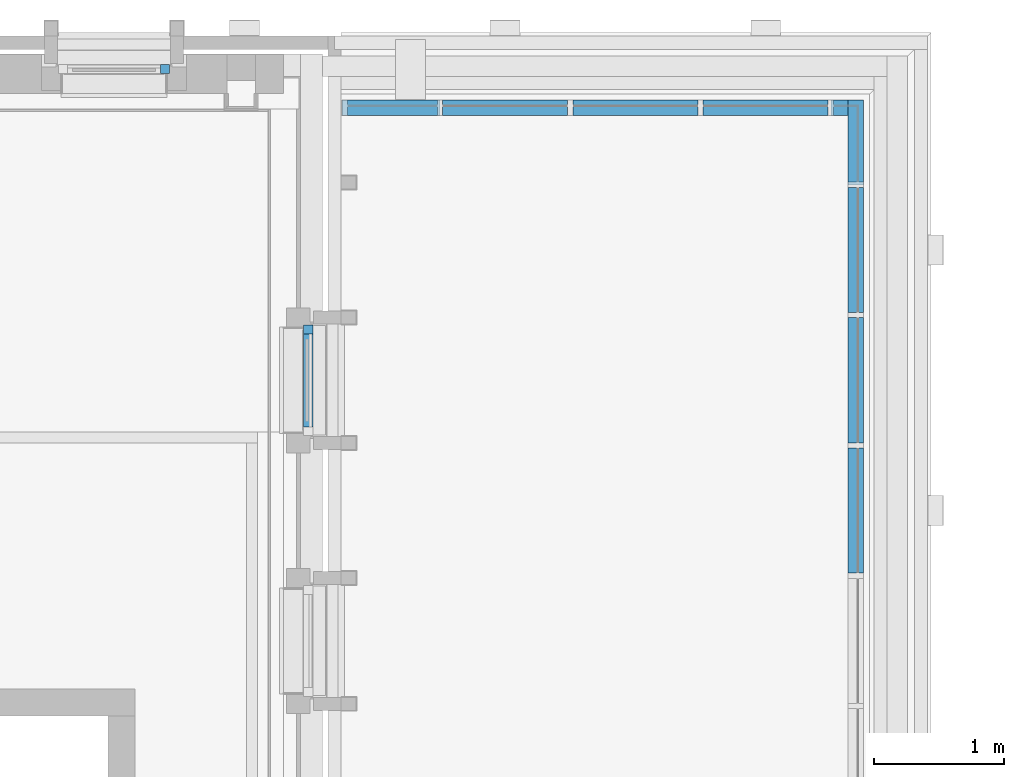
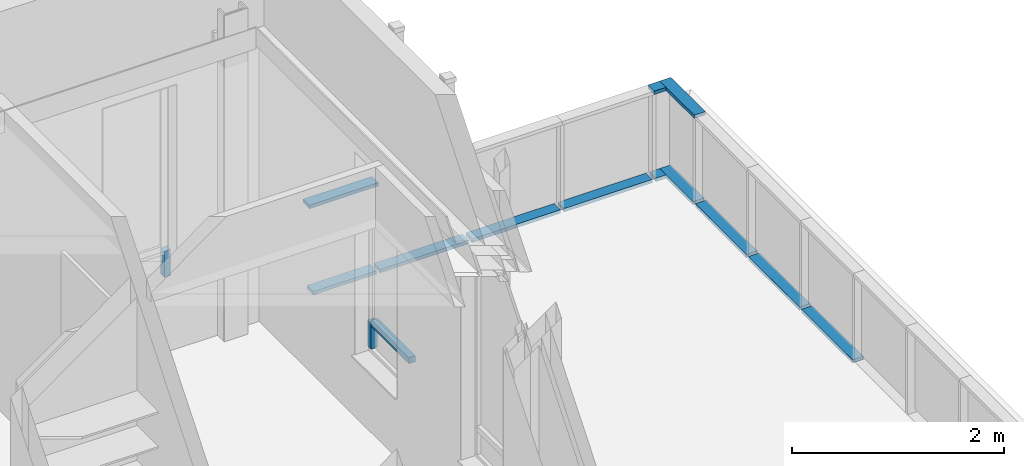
# One storey, part 16 of 118: 15 members, 4 elements without a shape of their own.
"""IFC2X3 building model written with IfcOpenShell, lengths in millimetres."""

from ifc_helpers import new_model, entity, si_unit, converted_unit, derived_unit, direction, frame, origin, origin_2d_with_axis, place, context, subcontext, project, spatial, rectangle, extrude, source, transform, mapped, material, material_list, type_object, type_shapes, element, aggregate, save


model = new_model("IFC2X3")

# Units and contexts
model_context = context("Model", 3, precision=0.01, world=origin(), true_north=direction((6.123031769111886e-17, 1.0)))
plan_context = context("Plan", 3, precision=0.01, world=origin(), true_north=direction((6.123031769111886e-17, 1.0)))
body_context = subcontext(model_context, "Body", "Model", "MODEL_VIEW")
ifc_project = project(units=[si_unit("LENGTHUNIT", "METRE", prefix="MILLI"), si_unit("AREAUNIT", "SQUARE_METRE"), si_unit("VOLUMEUNIT", "CUBIC_METRE"), converted_unit("PLANEANGLEUNIT", "DEGREE", entity("IfcRatioMeasure", 0.017453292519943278), si_unit("PLANEANGLEUNIT", "RADIAN"), dimensions=[0, 0, 0, 0, 0, 0, 0]), si_unit("MASSUNIT", "GRAM", prefix="KILO"), derived_unit("MASSDENSITYUNIT", [(si_unit("MASSUNIT", "GRAM", prefix="KILO"), 1), (si_unit("LENGTHUNIT", "METRE"), -3)]), derived_unit("IONCONCENTRATIONUNIT", [(si_unit("MASSUNIT", "GRAM", prefix="KILO"), 1), (si_unit("LENGTHUNIT", "METRE"), -3)]), derived_unit("MOMENTOFINERTIAUNIT", [(si_unit("LENGTHUNIT", "METRE"), 4)]), si_unit("TIMEUNIT", "SECOND"), si_unit("FREQUENCYUNIT", "HERTZ"), si_unit("THERMODYNAMICTEMPERATUREUNIT", "DEGREE_CELSIUS"), derived_unit("THERMALTRANSMITTANCEUNIT", [(si_unit("MASSUNIT", "GRAM", prefix="KILO"), 1), (si_unit("THERMODYNAMICTEMPERATUREUNIT", "KELVIN"), -1), (si_unit("TIMEUNIT", "SECOND"), -3)]), derived_unit("THERMALCONDUCTANCEUNIT", [(si_unit("MASSUNIT", "GRAM", prefix="KILO"), 1), (si_unit("THERMODYNAMICTEMPERATUREUNIT", "KELVIN"), -1), (si_unit("TIMEUNIT", "SECOND"), -3), (si_unit("LENGTHUNIT", "METRE"), 1)]), derived_unit("VOLUMETRICFLOWRATEUNIT", [(si_unit("LENGTHUNIT", "METRE"), 3), (si_unit("TIMEUNIT", "SECOND"), -1)]), derived_unit("MASSFLOWRATEUNIT", [(si_unit("MASSUNIT", "GRAM", prefix="KILO"), 1), (si_unit("TIMEUNIT", "SECOND"), -1)]), derived_unit("ROTATIONALFREQUENCYUNIT", [(si_unit("TIMEUNIT", "SECOND"), -1)]), si_unit("ELECTRICCURRENTUNIT", "AMPERE"), si_unit("ELECTRICVOLTAGEUNIT", "VOLT"), si_unit("POWERUNIT", "WATT"), si_unit("FORCEUNIT", "NEWTON", prefix="KILO"), si_unit("ILLUMINANCEUNIT", "LUX"), si_unit("LUMINOUSFLUXUNIT", "LUMEN"), si_unit("LUMINOUSINTENSITYUNIT", "CANDELA"), derived_unit("USERDEFINED", [(si_unit("MASSUNIT", "GRAM", prefix="KILO"), -1), (si_unit("LENGTHUNIT", "METRE"), -2), (si_unit("TIMEUNIT", "SECOND"), 3), (si_unit("LUMINOUSFLUXUNIT", "LUMEN"), 1)]), derived_unit("USERDEFINED", [(si_unit("MASSUNIT", "GRAM", prefix="KILO"), 1), (si_unit("TIMEUNIT", "SECOND"), -3), (si_unit("LENGTHUNIT", "METRE"), 3), (si_unit("ELECTRICCURRENTUNIT", "AMPERE"), -2)]), derived_unit("SOUNDPOWERUNIT", [(si_unit("MASSUNIT", "GRAM", prefix="KILO"), 1), (si_unit("TIMEUNIT", "SECOND"), -3), (si_unit("LENGTHUNIT", "METRE"), 2)]), derived_unit("SOUNDPRESSUREUNIT", [(si_unit("MASSUNIT", "GRAM", prefix="KILO"), 1), (si_unit("LENGTHUNIT", "METRE"), -1), (si_unit("TIMEUNIT", "SECOND"), -2)]), derived_unit("LINEARVELOCITYUNIT", [(si_unit("LENGTHUNIT", "METRE"), 1), (si_unit("TIMEUNIT", "SECOND"), -1)]), si_unit("PRESSUREUNIT", "PASCAL"), derived_unit("USERDEFINED", [(si_unit("MASSUNIT", "GRAM", prefix="KILO"), 1), (si_unit("LENGTHUNIT", "METRE"), -2), (si_unit("TIMEUNIT", "SECOND"), -2)]), derived_unit("LINEARFORCEUNIT", [(si_unit("MASSUNIT", "GRAM", prefix="KILO"), 1), (si_unit("TIMEUNIT", "SECOND"), -2)]), derived_unit("PLANARFORCEUNIT", [(si_unit("MASSUNIT", "GRAM", prefix="KILO"), 1), (si_unit("LENGTHUNIT", "METRE"), -1), (si_unit("TIMEUNIT", "SECOND"), -2)]), derived_unit("SPECIFICHEATCAPACITYUNIT", [(si_unit("THERMODYNAMICTEMPERATUREUNIT", "KELVIN"), -1), (si_unit("LENGTHUNIT", "METRE"), 2), (si_unit("TIMEUNIT", "SECOND"), -2)]), derived_unit("HEATINGVALUEUNIT", [(si_unit("LENGTHUNIT", "METRE"), 2), (si_unit("TIMEUNIT", "SECOND"), -2)]), derived_unit("VAPORPERMEABILITYUNIT", [(si_unit("LENGTHUNIT", "METRE"), -1), (si_unit("TIMEUNIT", "SECOND"), 1)]), derived_unit("DYNAMICVISCOSITYUNIT", [(si_unit("MASSUNIT", "GRAM", prefix="KILO"), 1), (si_unit("TIMEUNIT", "SECOND"), -1), (si_unit("LENGTHUNIT", "METRE"), -1)]), derived_unit("THERMALEXPANSIONCOEFFICIENTUNIT", [(si_unit("THERMODYNAMICTEMPERATUREUNIT", "KELVIN"), -1)]), derived_unit("MODULUSOFELASTICITYUNIT", [(si_unit("MASSUNIT", "GRAM", prefix="KILO"), 1), (si_unit("LENGTHUNIT", "METRE"), -1), (si_unit("TIMEUNIT", "SECOND"), -2)]), derived_unit("ISOTHERMALMOISTURECAPACITYUNIT", [(si_unit("LENGTHUNIT", "METRE"), 3), (si_unit("MASSUNIT", "GRAM", prefix="KILO"), -1)]), derived_unit("MOISTUREDIFFUSIVITYUNIT", [(si_unit("TIMEUNIT", "SECOND"), -1), (si_unit("LENGTHUNIT", "METRE"), 2)])], contexts=[model_context, plan_context])

# Site, building, storey
site_placement = place(None, origin())
site = spatial("IfcSite", under=ifc_project, at=site_placement, Name="Locatie", CompositionType="ELEMENT")
building_placement = place(site_placement, origin())
building = spatial("IfcBuilding", under=site, at=building_placement, Name="Bouwwerk", CompositionType="ELEMENT")
storey_placement = place(building_placement, frame((0.0, 0.0, 7800.0)))
storey = spatial("IfcBuildingStorey", under=building, at=storey_placement, Name="02 tweede verdieping", CompositionType="ELEMENT", Elevation=7800.000000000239)

# Curtain wall, member
curtain_wall_type_1 = type_object("IfcCurtainWallType", Name="Curtain Wall:NLRS_21_CW_Ontwerpkozijn_aluminium_RT72", PredefinedType="NOTDEFINED")
curtain_wall_1_placement = place(storey_placement, frame((0.0, 0.0, -7800.0)))
curtain_wall_1 = element("IfcCurtainWall", 1, at=curtain_wall_1_placement, inside=storey, type_object=curtain_wall_type_1, Name="Curtain Wall:NLRS_21_CW_Ontwerpkozijn_aluminium_RT72", ObjectType="Curtain Wall:NLRS_21_CW_Ontwerpkozijn_aluminium_RT72")
ifc_material_1 = material(Name="a_kozijn")
ifc_material_2 = material(Name="<Unnamed>")
ifc_material_list = material_list([ifc_material_2, ifc_material_1])
member_type_1 = type_object("IfcMemberType", Name="Rectangular Mullion:RT72_Hl_raam", PredefinedType="MULLION", material=ifc_material_list)
shared_shape_1 = source(origin(), body_context, "Body", "SweptSolid", [
    extrude(rectangle(XDim=71.99999999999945, YDim=68.00000000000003, at=origin_2d_with_axis()), frame((-34.0, -36.0, -301.0), z_axis=(0.0, 0.0, 1.0), x_axis=(0.0, -1.0, 0.0)), (0.0, 0.0, 1.0), 301.00000000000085),
])
type_shapes(member_type_1, [shared_shape_1])
member_1_placement = place(curtain_wall_1_placement, frame((33725.0, 34553.0, 8541.0), z_axis=(0.0, 0.0, -1.0), x_axis=(1.0, 0.0, 0.0)))
member_1 = element("IfcMember", 2, at=member_1_placement, type_object=member_type_1, material=ifc_material_1, Name="Rectangular Mullion:RT72_Hl_raam", ObjectType="Rectangular Mullion:RT72_Hl_raam", context=body_context, shape_type="MappedRepresentation", body=[
    mapped(shared_shape_1, transform((0.0, 0.0, 0.0), scale=1.0)),
])
aggregate(curtain_wall_1, [member_1])

# Curtain wall, members
curtain_wall_2_placement = place(storey_placement, frame((0.0, 0.0, -7800.0)))
curtain_wall_2 = element("IfcCurtainWall", 3, at=curtain_wall_2_placement, inside=storey, type_object=curtain_wall_type_1, Name="Curtain Wall:NLRS_21_CW_Ontwerpkozijn_aluminium_RT72", ObjectType="Curtain Wall:NLRS_21_CW_Ontwerpkozijn_aluminium_RT72")
member_type_2 = type_object("IfcMemberType", Name="Rectangular Mullion:RT72_Hr_raam", PredefinedType="MULLION", material=ifc_material_list)
shared_shape_2 = source(origin(), body_context, "Body", "SweptSolid", [
    extrude(rectangle(XDim=71.99999999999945, YDim=68.00000000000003, at=origin_2d_with_axis()), frame((-34.0, -36.0, -301.0), z_axis=(0.0, 0.0, 1.0), x_axis=(0.0, -1.0, 0.0)), (0.0, 0.0, 1.0), 301.00000000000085),
])
type_shapes(member_type_2, [shared_shape_2])
member_2_placement = place(curtain_wall_2_placement, frame((34753.0, 32625.0, 8842.0), z_axis=(0.0, 0.0, 1.0), x_axis=(0.0, 1.0, 0.0)))
member_2 = element("IfcMember", 4, at=member_2_placement, type_object=member_type_2, material=ifc_material_1, Name="Rectangular Mullion:RT72_Hr_raam", ObjectType="Rectangular Mullion:RT72_Hr_raam", context=body_context, shape_type="MappedRepresentation", body=[
    mapped(shared_shape_2, transform((0.0, 0.0, 0.0), scale=1.0)),
])
member_type_3 = type_object("IfcMemberType", Name="Rectangular Mullion:RT72_Vb_raam", PredefinedType="MULLION", material=ifc_material_list)
shared_shape_3 = source(origin(), body_context, "Body", "SweptSolid", [
    extrude(rectangle(XDim=71.99999999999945, YDim=68.00000000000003, at=origin_2d_with_axis()), frame((0.0, -36.0, -714.0), z_axis=(0.0, 0.0, 1.0), x_axis=(0.0, -1.0, 0.0)), (0.0, 0.0, 1.0), 714.0000000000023),
])
type_shapes(member_type_3, [shared_shape_3])
member_3_placement = place(curtain_wall_2_placement, frame((34753.0, 31843.0, 8842.0), z_axis=(0.0, -1.0, 0.0), x_axis=(0.0, 0.0, 1.0)))
member_3 = element("IfcMember", 5, at=member_3_placement, type_object=member_type_3, material=ifc_material_1, Name="Rectangular Mullion:RT72_Vb_raam", ObjectType="Rectangular Mullion:RT72_Vb_raam", context=body_context, shape_type="MappedRepresentation", body=[
    mapped(shared_shape_3, transform((0.0, 0.0, 0.0), scale=1.0)),
])
aggregate(curtain_wall_2, [member_2, member_3])

curtain_wall_type_2 = type_object("IfcCurtainWallType", Name="Curtain Wall:railing 120x40", PredefinedType="NOTDEFINED")
curtain_wall_3_placement = place(storey_placement, frame((0.0, 0.0, -7800.0)))
curtain_wall_3 = element("IfcCurtainWall", 6, at=curtain_wall_3_placement, inside=storey, type_object=curtain_wall_type_2, Name="Curtain Wall:railing 120x40", ObjectType="Curtain Wall:railing 120x40")
ifc_material_3 = material(Name="staal")
member_type_4 = type_object("IfcMemberType", Name="Rectangular Mullion:40x120 railing", PredefinedType="MULLION", material=ifc_material_3)
shared_shape_4 = source(origin(), body_context, "Body", "SweptSolid", [
    extrude(rectangle(XDim=120.0, YDim=40.0, at=origin_2d_with_axis()), frame((-20.0, 0.0, -960.0), z_axis=(0.0, 0.0, 1.0), x_axis=(0.0, -1.0, 0.0)), (0.0, 0.0, 1.0), 959.9999999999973),
])
type_shapes(member_type_4, [shared_shape_4])
member_4_placement = place(curtain_wall_3_placement, frame((38990.0, 30720.0, 8033.0), z_axis=(0.0, -1.0, 0.0), x_axis=(0.0, 0.0, -1.0)))
member_4 = element("IfcMember", 7, at=member_4_placement, type_object=member_type_4, material=ifc_material_3, Name="Rectangular Mullion:40x120 railing", ObjectType="Rectangular Mullion:40x120 railing", context=body_context, shape_type="MappedRepresentation", body=[
    mapped(shared_shape_4, transform((0.0, 0.0, 0.0), scale=1.0)),
])
member_5_placement = place(curtain_wall_3_placement, frame((38990.0, 32720.0, 8033.0), z_axis=(0.0, -1.0, 0.0), x_axis=(0.0, 0.0, -1.0)))
member_5 = element("IfcMember", 8, at=member_5_placement, type_object=member_type_4, material=ifc_material_3, Name="Rectangular Mullion:40x120 railing", ObjectType="Rectangular Mullion:40x120 railing", context=body_context, shape_type="MappedRepresentation", body=[
    mapped(shared_shape_4, transform((0.0, 0.0, 0.0), scale=1.0)),
])
member_6_placement = place(curtain_wall_3_placement, frame((38990.0, 31720.0, 8033.0), z_axis=(0.0, -1.0, 0.0), x_axis=(0.0, 0.0, -1.0)))
member_6 = element("IfcMember", 9, at=member_6_placement, type_object=member_type_4, material=ifc_material_3, Name="Rectangular Mullion:40x120 railing", ObjectType="Rectangular Mullion:40x120 railing", context=body_context, shape_type="MappedRepresentation", body=[
    mapped(shared_shape_4, transform((0.0, 0.0, 0.0), scale=1.0)),
])

curtain_wall_4_placement = place(storey_placement, frame((0.0, 0.0, -7800.0)))
curtain_wall_4 = element("IfcCurtainWall", 10, at=curtain_wall_4_placement, inside=storey, type_object=curtain_wall_type_2, Name="Curtain Wall:railing 120x40", ObjectType="Curtain Wall:railing 120x40")
member_7_placement = place(curtain_wall_4_placement, frame((37780.0, 34290.0, 8033.0), z_axis=(1.0, 0.0, 0.0), x_axis=(0.0, 0.0, -1.0)))
member_7 = element("IfcMember", 11, at=member_7_placement, type_object=member_type_4, material=ifc_material_3, Name="Rectangular Mullion:40x120 railing", ObjectType="Rectangular Mullion:40x120 railing", context=body_context, shape_type="MappedRepresentation", body=[
    mapped(shared_shape_4, transform((0.0, 0.0, 0.0), scale=1.0)),
])
member_8_placement = place(curtain_wall_4_placement, frame((36780.0, 34290.0, 8033.0), z_axis=(1.0, 0.0, 0.0), x_axis=(0.0, 0.0, -1.0)))
member_8 = element("IfcMember", 12, at=member_8_placement, type_object=member_type_4, material=ifc_material_3, Name="Rectangular Mullion:40x120 railing", ObjectType="Rectangular Mullion:40x120 railing", context=body_context, shape_type="MappedRepresentation", body=[
    mapped(shared_shape_4, transform((0.0, 0.0, 0.0), scale=1.0)),
])
member_9_placement = place(curtain_wall_4_placement, frame((38780.0, 34290.0, 8033.0), z_axis=(1.0, 0.0, 0.0), x_axis=(0.0, 0.0, -1.0)))
member_9 = element("IfcMember", 13, at=member_9_placement, type_object=member_type_4, material=ifc_material_3, Name="Rectangular Mullion:40x120 railing", ObjectType="Rectangular Mullion:40x120 railing", context=body_context, shape_type="MappedRepresentation", body=[
    mapped(shared_shape_4, transform((0.0, 0.0, 0.0), scale=1.0)),
])
member_type_5 = type_object("IfcMemberType", Name="Rectangular Mullion:40x120 railing", PredefinedType="MULLION", material=ifc_material_3)
shared_shape_5 = source(origin(), body_context, "Body", "SweptSolid", [
    extrude(rectangle(XDim=120.0, YDim=40.0, at=origin_2d_with_axis()), frame((-20.0, 0.0, -690.0), z_axis=(0.0, 0.0, 1.0), x_axis=(0.0, -1.0, 0.0)), (0.0, 0.0, 1.0), 690.0000000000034),
])
type_shapes(member_type_5, [shared_shape_5])
member_10_placement = place(curtain_wall_4_placement, frame((35780.0, 34290.0, 8033.0), z_axis=(1.0, 0.0, 0.0), x_axis=(0.0, 0.0, -1.0)))
member_10 = element("IfcMember", 14, at=member_10_placement, type_object=member_type_5, material=ifc_material_3, Name="Rectangular Mullion:40x120 railing", ObjectType="Rectangular Mullion:40x120 railing", context=body_context, shape_type="MappedRepresentation", body=[
    mapped(shared_shape_5, transform((0.0, 0.0, 0.0), scale=1.0)),
])

# Member
member_type_6 = type_object("IfcMemberType", Name="Rectangular Mullion:40x120 railing", PredefinedType="MULLION", material=ifc_material_3)
shared_shape_6 = source(origin(), body_context, "Body", "SweptSolid", [
    extrude(rectangle(XDim=120.0, YDim=40.0, at=origin_2d_with_axis()), frame((-20.0, 0.0, -650.0), z_axis=(0.0, 0.0, 1.0), x_axis=(0.0, -1.0, 0.0)), (0.0, 0.0, 1.0), 650.0000000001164),
])
type_shapes(member_type_6, [shared_shape_6])
member_11_placement = place(curtain_wall_3_placement, frame((38990.0, 34350.0, 9080.0), z_axis=(0.0, 1.0, 0.0), x_axis=(0.0, 0.0, 1.0)))
member_11 = element("IfcMember", 15, at=member_11_placement, type_object=member_type_6, material=ifc_material_3, Name="Rectangular Mullion:40x120 railing", ObjectType="Rectangular Mullion:40x120 railing", context=body_context, shape_type="MappedRepresentation", body=[
    mapped(shared_shape_6, transform((0.0, 0.0, 0.0), scale=1.0)),
])

member_type_7 = type_object("IfcMemberType", Name="Rectangular Mullion:40x120 railing", PredefinedType="MULLION", material=ifc_material_3)
shared_shape_7 = source(origin(), body_context, "Body", "SweptSolid", [
    extrude(rectangle(XDim=120.0, YDim=40.0, at=origin_2d_with_axis()), frame((-20.0, 0.0, -630.0), z_axis=(0.0, 0.0, 1.0), x_axis=(0.0, -1.0, 0.0)), (0.0, 0.0, 1.0), 630.0000000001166),
])
type_shapes(member_type_7, [shared_shape_7])
member_12_placement = place(curtain_wall_3_placement, frame((38990.0, 33720.0, 8033.0), z_axis=(0.0, -1.0, 0.0), x_axis=(0.0, 0.0, -1.0)))
member_12 = element("IfcMember", 16, at=member_12_placement, type_object=member_type_7, material=ifc_material_3, Name="Rectangular Mullion:40x120 railing", ObjectType="Rectangular Mullion:40x120 railing", context=body_context, shape_type="MappedRepresentation", body=[
    mapped(shared_shape_7, transform((0.0, 0.0, 0.0), scale=1.0)),
])

aggregate(curtain_wall_3, [member_11, member_4, member_5, member_6, member_12])

member_type_8 = type_object("IfcMemberType", Name="Rectangular Mullion:40x120 railing", PredefinedType="MULLION", material=ifc_material_3)
shared_shape_8 = source(origin(), body_context, "Body", "SweptSolid", [
    extrude(rectangle(XDim=120.0, YDim=40.0, at=origin_2d_with_axis()), frame((-20.0, 0.0, -750.0), z_axis=(0.0, 0.0, 1.0), x_axis=(0.0, -1.0, 0.0)), (0.0, 0.0, 1.0), 750.0000000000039),
])
type_shapes(member_type_8, [shared_shape_8])
member_13_placement = place(curtain_wall_4_placement, frame((35050.0, 34290.0, 9080.0), z_axis=(-1.0, 0.0, 0.0), x_axis=(0.0, 0.0, 1.0)))
member_13 = element("IfcMember", 17, at=member_13_placement, type_object=member_type_8, material=ifc_material_3, Name="Rectangular Mullion:40x120 railing", ObjectType="Rectangular Mullion:40x120 railing", context=body_context, shape_type="MappedRepresentation", body=[
    mapped(shared_shape_8, transform((0.0, 0.0, 0.0), scale=1.0)),
])

member_type_9 = type_object("IfcMemberType", Name="Rectangular Mullion:40x120 railing", PredefinedType="MULLION", material=ifc_material_3)
shared_shape_9 = source(origin(), body_context, "Body", "SweptSolid", [
    extrude(rectangle(XDim=120.0, YDim=40.0, at=origin_2d_with_axis()), frame((-20.0, 0.0, -110.0), z_axis=(0.0, 0.0, 1.0), x_axis=(0.0, -1.0, 0.0)), (0.0, 0.0, 1.0), 109.99999999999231),
])
type_shapes(member_type_9, [shared_shape_9])
member_14_placement = place(curtain_wall_4_placement, frame((38930.0, 34290.0, 8033.0), z_axis=(1.0, 0.0, 0.0), x_axis=(0.0, 0.0, -1.0)))
member_14 = element("IfcMember", 18, at=member_14_placement, type_object=member_type_9, material=ifc_material_3, Name="Rectangular Mullion:40x120 railing", ObjectType="Rectangular Mullion:40x120 railing", context=body_context, shape_type="MappedRepresentation", body=[
    mapped(shared_shape_9, transform((0.0, 0.0, 0.0), scale=1.0)),
])

member_type_10 = type_object("IfcMemberType", Name="Rectangular Mullion:40x120 railing", PredefinedType="MULLION", material=ifc_material_3)
shared_shape_10 = source(origin(), body_context, "Body", "SweptSolid", [
    extrude(rectangle(XDim=120.0, YDim=40.0, at=origin_2d_with_axis()), frame((-20.0, 0.0, -130.0), z_axis=(0.0, 0.0, 1.0), x_axis=(0.0, -1.0, 0.0)), (0.0, 0.0, 1.0), 129.9999999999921),
])
type_shapes(member_type_10, [shared_shape_10])
member_15_placement = place(curtain_wall_4_placement, frame((38800.0, 34290.0, 9080.0), z_axis=(-1.0, 0.0, 0.0), x_axis=(0.0, 0.0, 1.0)))
member_15 = element("IfcMember", 19, at=member_15_placement, type_object=member_type_10, material=ifc_material_3, Name="Rectangular Mullion:40x120 railing", ObjectType="Rectangular Mullion:40x120 railing", context=body_context, shape_type="MappedRepresentation", body=[
    mapped(shared_shape_10, transform((0.0, 0.0, 0.0), scale=1.0)),
])

aggregate(curtain_wall_4, [member_13, member_14, member_7, member_10, member_8, member_9, member_15])

save(model, "model.ifc")
